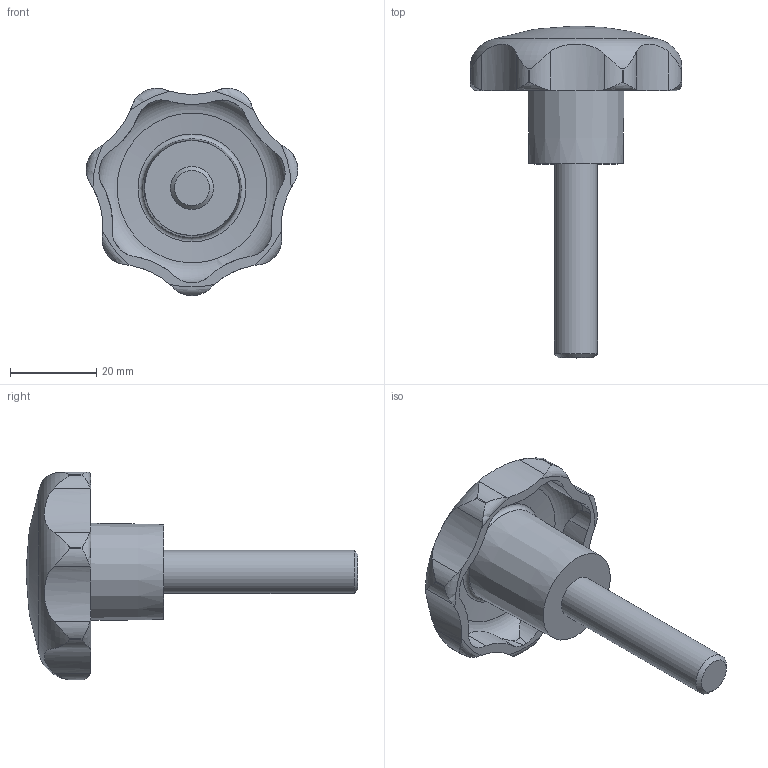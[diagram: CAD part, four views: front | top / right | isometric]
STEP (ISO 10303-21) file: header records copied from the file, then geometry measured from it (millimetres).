
FILE_DESCRIPTION( ( 'STEP AP203' ), '1' );
FILE_NAME( 'C:/Temp/Ganter_Step_05_03_2020/data/2_2/gn_6336_4/gn_6336_4_st/Star knob GN 6336.4-ST-50-M10-45.stp', '2020-03-05T12:07:39', ( 'License CC BY-ND 4.0' ), ( 'CADENAS' ), ' ', 'PARTsolutions', ' ' );
FILE_SCHEMA( ( 'CONFIG_CONTROL_DESIGN' ) );
Length unit declared in the file: millimetre
Products named in the file (1): _Star knob GN 6336.4-ST-50-M10-45
Bounding box: 49.04 x 77 x 48.12 mm (x, y, z)
Volume: 24682.2 mm3; surface area: 8863 mm2
Topology: 1 solids, 1 shells, 74 faces, 209 edges, 138 vertices
Faces by surface type: cylinder 50, torus 10, cone 10, plane 3, sphere 1
Full cylindrical faces by diameter (mm): 10 x1
Entity records: 3234 total; most frequent: CARTESIAN_POINT 1425, ORIENTED_EDGE 394, DIRECTION 334, EDGE_CURVE 197, AXIS2_PLACEMENT_3D 146, VERTEX_POINT 135, B_SPLINE_CURVE_WITH_KNOTS 84, EDGE_LOOP 83
